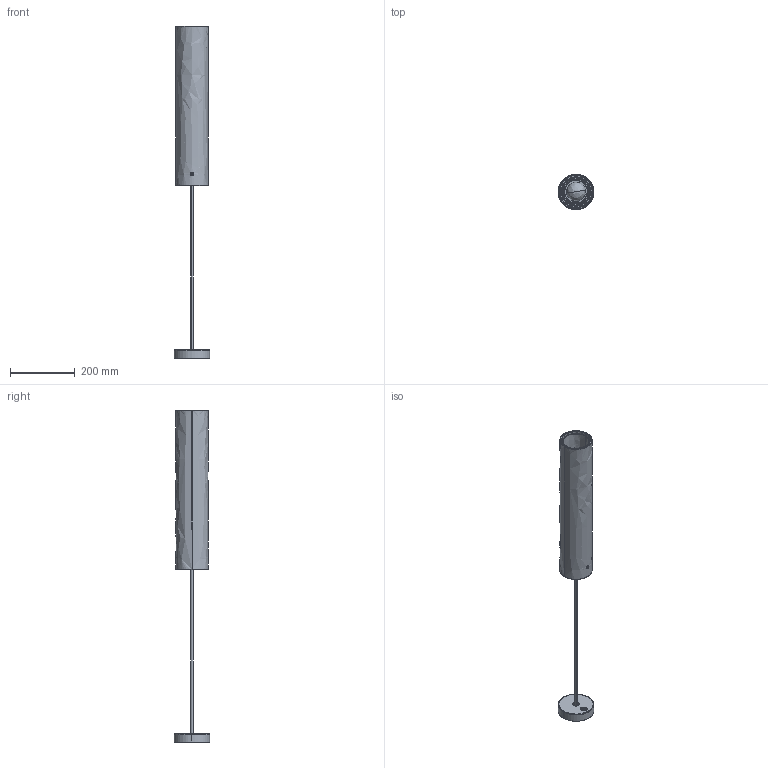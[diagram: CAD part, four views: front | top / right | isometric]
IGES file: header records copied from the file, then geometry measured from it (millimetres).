
Start section: SolidWorks IGES file using analytic representation for surfaces
Global section: file name: C:\Users\tungari.NEMOLIGHTING\Desktop\3D\PENDANT\3D_ILIUM_MINI\3D_DEFEATURE_ILIUM_HALO_MINI\3D_ILIUM_HALO_MINI.IGS; native system: SolidWorks 2016; preprocessor: SolidWorks 2016; author: tungari; date: 180223.161129; units: millimetre
Bounding box: 109.97 x 109.97 x 1027.55 mm (x, y, z)
Surface area: 715124.6 mm2 (no closed solid volume)
Topology: 0 solids, 0 shells, 227 faces, 4722 edges, 4720 vertices
Faces by surface type: revolution 144, bspline 83
